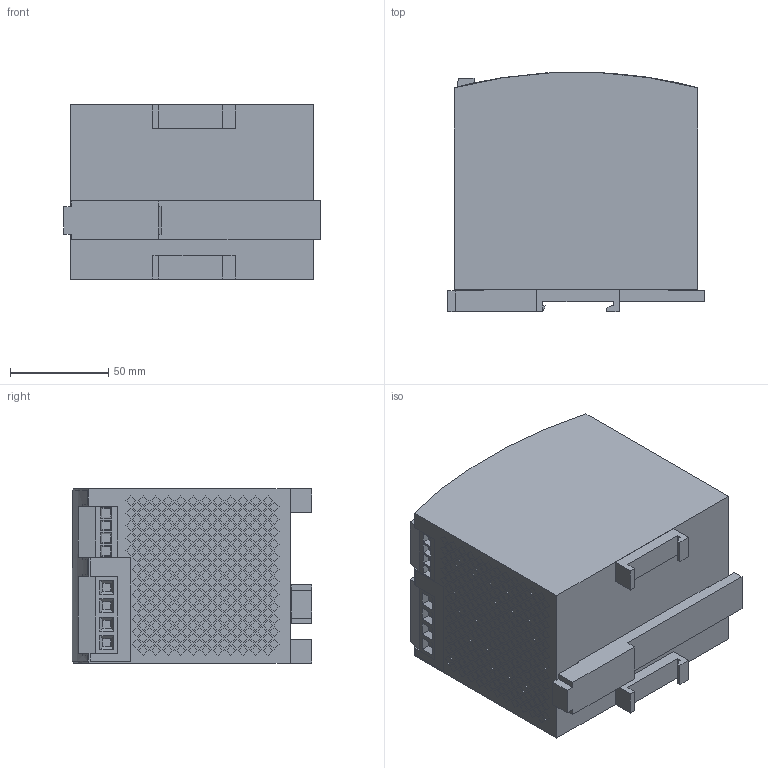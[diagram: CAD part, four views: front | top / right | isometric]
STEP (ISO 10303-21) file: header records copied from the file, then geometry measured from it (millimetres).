
FILE_DESCRIPTION((''),'2;1');
FILE_NAME('1606-XL240E-3C_SW0001','2007-03-27T',('abschult'),('Rockwell Automation'),'PRO/ENGINEER BY PARAMETRIC TECHNOLOGY CORPORATION, 2004320','PRO/ENGINEER BY PARAMETRIC TECHNOLOGY CORPORATION, 2004320','');
FILE_SCHEMA(('CONFIG_CONTROL_DESIGN'));
Length unit declared in the file: millimetre
Products named in the file (1): 1606-XL240E-3C_SW0001
Bounding box: 131 x 122.01 x 89.05 mm (x, y, z)
Surface area: 74553.4 mm2 (no closed solid volume)
Topology: 0 solids, 294 shells, 436 faces, 2749 edges, 2618 vertices
Faces by surface type: plane 416, cylinder 20
Entity records: 26335 total; most frequent: CARTESIAN_POINT 5845, DIRECTION 3683, ORIENTED_EDGE 3092, EDGE_CURVE 2749, VECTOR 2679, LINE 2679, VERTEX_POINT 2618, EDGE_LOOP 750
